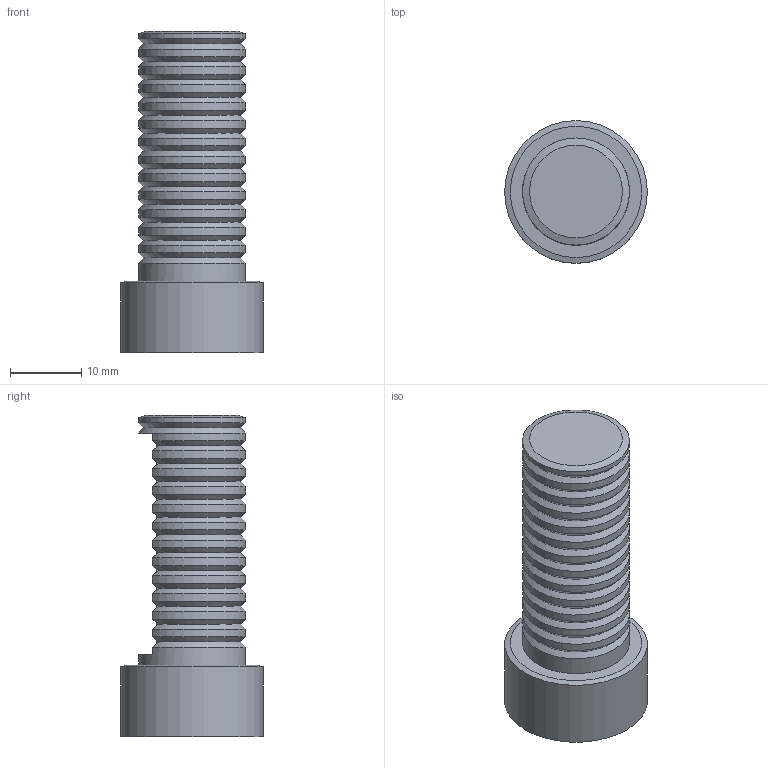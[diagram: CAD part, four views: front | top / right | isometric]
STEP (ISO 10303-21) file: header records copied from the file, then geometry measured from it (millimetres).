
FILE_DESCRIPTION(('FreeCAD Model'),'2;1');
FILE_NAME('Open CASCADE Shape Model','2026-09-12T20:47:46',('FreeCAD'),( 'FreeCAD'),'Open CASCADE STEP processor 7.8','FreeCAD','Unknown');
FILE_SCHEMA(('AUTOMOTIVE_DESIGN { 1 0 10303 214 1 1 1 1 }'));
Products named in the file (1): Open CASCADE STEP translator 7.8 1
Bounding box: 20 x 20 x 45 mm (x, y, z)
Volume: 8044.1 mm3; surface area: 3893.9 mm2
Topology: 1 solids, 1 shells, 2801 faces, 7844 edges, 5207 vertices
Faces by surface type: plane 2675, extrusion 56, cone 52, cylinder 18
Full cylindrical faces by diameter (mm): 15 x3, 16.4 x1, 17.8 x1, 18.2 x1, 20 x1
Entity records: 88662 total; most frequent: CARTESIAN_POINT 16482, ORIENTED_EDGE 15688, DIRECTION 13465, EDGE_CURVE 7844, VECTOR 7603, LINE 7547, VERTEX_POINT 5207, FACE_BOUND 2963
